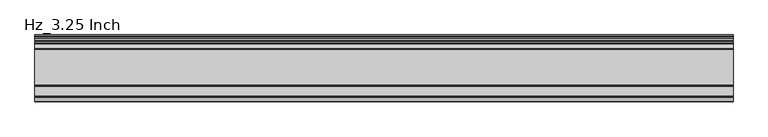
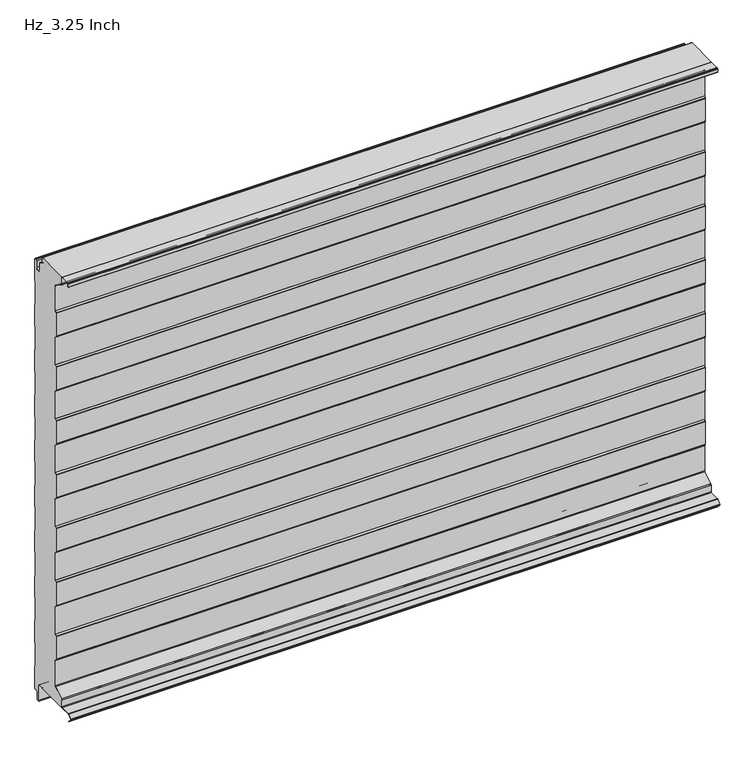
"""IFC4 building model written with IfcOpenShell, lengths in millimetres: plate geometry, KIP_R19_CP_KingSeam_Hz_Roof Panel : Hz_3.25 Inch."""

import ifcopenshell
import ifcopenshell.guid

model = None  # the IFC model being written
_history = None  # IfcOwnerHistory: only IFC2X3 demands one
_inside = {}  # id of a spatial element -> (the spatial element, [elements in it])
_under = {}  # id of a project, library or spatial element -> (it, [spatial elements below it])
_declared = {}  # id of a project -> (the project, [libraries it declares])
_typed = {}  # id of a type object -> (the type object, [elements of that type])
_made_of = {}  # id of a material, layer set ... -> (it, [elements and type objects made of it])


def new_model(schema):
    """Start an empty IFC model of exactly this schema.

    Asked for "IFC4X3", IfcOpenShell would pick the latest addendum, in which some entities
    have other attributes; the version numbers below select the first issue.
    IFC2X3 requires an IfcOwnerHistory on every rooted entity: one is made here for all.
    """
    global model, _history
    if schema == "IFC4X3":
        model = ifcopenshell.file(schema_version=(4, 3, 0, 0))
    else:
        model = ifcopenshell.file(schema=schema)
    _inside.clear()
    _under.clear()
    _declared.clear()
    _typed.clear()
    _made_of.clear()
    _history = None
    if model.schema == "IFC2X3":
        org = make("IfcOrganization", Name="unknown")
        user = make(
            "IfcPersonAndOrganization",
            ThePerson=make("IfcPerson", FamilyName="unknown"),
            TheOrganization=org,
        )
        app = make(
            "IfcApplication",
            ApplicationDeveloper=org,
            Version="unknown",
            ApplicationFullName="unknown",
            ApplicationIdentifier="unknown",
        )
        _history = make(
            "IfcOwnerHistory",
            OwningUser=user,
            OwningApplication=app,
            ChangeAction="ADDED",
            CreationDate=0,
        )
    return model


def make(cls, **values):
    """One entity of the class cls with the attributes given. An attribute that is None is left unset."""
    return model.create_entity(
        cls, **{name: value for name, value in values.items() if value is not None}
    )


def rooted(cls, **values):
    """An entity with a GlobalId (a new one), such as an element, a storey or a relation."""
    return make(cls, GlobalId=ifcopenshell.guid.new(), OwnerHistory=_history, **values)


def si_unit(unit_type, name, prefix=None):
    """IfcSIUnit, for example si_unit("LENGTHUNIT", "METRE", prefix="MILLI")."""
    return make("IfcSIUnit", UnitType=unit_type, Prefix=prefix, Name=name)


def assignment(units):
    """IfcUnitAssignment: the units of a project."""
    return None if units is None else make("IfcUnitAssignment", Units=units)


def point(xyz):
    """IfcCartesianPoint."""
    return None if xyz is None else make("IfcCartesianPoint", Coordinates=xyz)


def direction(xyz):
    """IfcDirection."""
    return None if xyz is None else make("IfcDirection", DirectionRatios=xyz)


def frame(location, z_axis=None, x_axis=None):
    """IfcAxis2Placement3D, a coordinate frame: its origin and axes. An axis left out is left unset."""
    return make(
        "IfcAxis2Placement3D",
        Location=point(location),
        Axis=direction(z_axis),
        RefDirection=direction(x_axis),
    )


def frame_2d(location, x_axis=None):
    """IfcAxis2Placement2D, a coordinate frame in the plane: its origin and x axis."""
    return make(
        "IfcAxis2Placement2D", Location=point(location), RefDirection=direction(x_axis)
    )


def origin():
    """The frame at (0, 0, 0) with its axes left unset."""
    return frame((0.0, 0.0, 0.0))


def place(relative_to, where):
    """IfcLocalPlacement: puts the frame where relative to a parent placement (None: the world)."""
    return make(
        "IfcLocalPlacement", PlacementRelTo=relative_to, RelativePlacement=where
    )


def context(
    kind, dimensions, precision=None, world=None, true_north=None, identifier=None
):
    """IfcGeometricRepresentationContext, for example the 3D "Model" context."""
    return make(
        "IfcGeometricRepresentationContext",
        ContextIdentifier=identifier,
        ContextType=kind,
        CoordinateSpaceDimension=dimensions,
        Precision=precision,
        WorldCoordinateSystem=world,
        TrueNorth=true_north,
    )


def project(units=None, contexts=None):
    """IfcProject with its units and contexts."""
    return rooted(
        "IfcProject",
        Name="project",
        RepresentationContexts=contexts,
        UnitsInContext=assignment(units),
    )


def spatial(cls, under=None, at=None, **own):
    """A site, building, storey or space (cls), placed at a placement, below another one or the project."""
    s = rooted(cls, ObjectPlacement=at, **own)
    if under is not None:
        _under.setdefault(under.id(), (under, []))[1].append(s)
    return s


def polyline(points):
    """IfcPolyline through the points."""
    return make("IfcPolyline", Points=[point(p) for p in points])


def circle_curve(where, radius):
    """IfcCircle in the frame where."""
    return make("IfcCircle", Position=where, Radius=radius)


def trimmed(basis, trim1, trim2, sense, master):
    """IfcTrimmedCurve: the piece of a basis curve between two trims."""
    return make(
        "IfcTrimmedCurve",
        BasisCurve=basis,
        Trim1=trim1,
        Trim2=trim2,
        SenseAgreement=sense,
        MasterRepresentation=master,
    )


def segment(curve, same_sense, transition):
    """IfcCompositeCurveSegment."""
    return make(
        "IfcCompositeCurveSegment",
        Transition=transition,
        SameSense=same_sense,
        ParentCurve=curve,
    )


def composite_curve(segments, self_intersect=None):
    """IfcCompositeCurve: segments joined end to end."""
    return make("IfcCompositeCurve", Segments=segments, SelfIntersect=self_intersect)


def outline(outer, holes=None, kind="AREA"):
    """IfcArbitraryClosedProfileDef: a profile drawn as a closed curve; with holes, ...WithVoids."""
    if holes is None:
        return make("IfcArbitraryClosedProfileDef", ProfileType=kind, OuterCurve=outer)
    return make(
        "IfcArbitraryProfileDefWithVoids",
        ProfileType=kind,
        OuterCurve=outer,
        InnerCurves=holes,
    )


def extrude(swept, where, along, depth):
    """IfcExtrudedAreaSolid: the profile swept, set in the frame where, extruded along a direction by depth."""
    return make(
        "IfcExtrudedAreaSolid",
        SweptArea=swept,
        Position=where,
        ExtrudedDirection=direction(along),
        Depth=depth,
    )


def shape(context_of_items, identifier, shape_type, items):
    """IfcShapeRepresentation: the items that make up one representation, for example the "Body"."""
    return make(
        "IfcShapeRepresentation",
        ContextOfItems=context_of_items,
        RepresentationIdentifier=identifier,
        RepresentationType=shape_type,
        Items=items,
    )


def source(mapping_origin, context_of_items, identifier, shape_type, items):
    """IfcRepresentationMap: a shape defined once, which mapped items show again and again."""
    return make(
        "IfcRepresentationMap",
        MappingOrigin=mapping_origin,
        MappedRepresentation=shape(context_of_items, identifier, shape_type, items),
    )


def transform(
    local_origin,
    x_axis=None,
    y_axis=None,
    z_axis=None,
    scale=None,
    scale2=None,
    scale3=None,
    uniform=True,
):
    """IfcCartesianTransformationOperator3D, or its non-uniform kind. x_axis, y_axis, z_axis: its Axis1, 2, 3."""
    if uniform:
        return make(
            "IfcCartesianTransformationOperator3D",
            Axis1=direction(x_axis),
            Axis2=direction(y_axis),
            LocalOrigin=point(local_origin),
            Scale=scale,
            Axis3=direction(z_axis),
        )
    return make(
        "IfcCartesianTransformationOperator3DnonUniform",
        Axis1=direction(x_axis),
        Axis2=direction(y_axis),
        LocalOrigin=point(local_origin),
        Scale=scale,
        Axis3=direction(z_axis),
        Scale2=scale2,
        Scale3=scale3,
    )


def mapped(mapping_source, mapping_target):
    """IfcMappedItem: shows the shape of a source again, moved by a transform."""
    return make(
        "IfcMappedItem", MappingSource=mapping_source, MappingTarget=mapping_target
    )


def made_of(thing, what):
    """Note that an element or type object is made of a material, layer set ...; save() writes the relation."""
    if what is not None:
        _made_of.setdefault(what.id(), (what, []))[1].append(thing)
    return thing


def element(
    cls,
    number,
    at=None,
    inside=None,
    cuts=None,
    type_object=None,
    material=None,
    context=None,
    identifier="Body",
    shape_type=None,
    held_by="IfcProductDefinitionShape",
    body=None,
    shapes=None,
    **own,
):
    """One element of the class cls, such as IfcWall. Its Tag is "e" and its number.

    at: its placement. inside: the storey or other place that contains it. cuts: it is an
    opening in that element (IfcRelVoidsElement). A single representation is given by context,
    identifier, shape_type and body (its items); several are given by shapes. held_by: the class
    of the entity that holds the representations. save() writes the other relations.
    """
    e = rooted(cls, Tag="e%d" % number, ObjectPlacement=at, **own)
    if body is not None:
        shapes = [shape(context, identifier, shape_type, body)]
    if shapes is not None:
        e.Representation = make(held_by, Representations=shapes)
    if inside is not None:
        _inside.setdefault(inside.id(), (inside, []))[1].append(e)
    if cuts is not None:
        rooted(
            "IfcRelVoidsElement", RelatingBuildingElement=cuts, RelatedOpeningElement=e
        )
    if type_object is not None:
        _typed.setdefault(type_object.id(), (type_object, []))[1].append(e)
    return made_of(e, material)


def aggregate(whole, parts):
    """IfcRelAggregates: a whole, such as a stair, and the parts it consists of."""
    return rooted("IfcRelAggregates", RelatingObject=whole, RelatedObjects=parts)


def save(model, path):
    """Write the relations noted so far, then the file.

    IfcRelAggregates (storeys below a building ...), IfcRelContainedInSpatialStructure (elements
    in a storey), IfcRelDefinesByType, IfcRelAssociatesMaterial and IfcRelDeclares: one each for
    every whole, place, type object, material and project.
    """
    for whole, parts in _under.values():
        aggregate(whole, parts)
    for where, things in _inside.values():
        rooted(
            "IfcRelContainedInSpatialStructure",
            RelatedElements=things,
            RelatingStructure=where,
        )
    for kind, things in _typed.values():
        rooted("IfcRelDefinesByType", RelatedObjects=things, RelatingType=kind)
    for what, things in _made_of.values():
        rooted("IfcRelAssociatesMaterial", RelatedObjects=things, RelatingMaterial=what)
    for by, libraries in _declared.values():
        rooted("IfcRelDeclares", RelatingContext=by, RelatedDefinitions=libraries)
    model.write(path)


def hz_3_25_inch_18bb287b(model_context):
    return source(origin(), model_context, "Body", "SweptSolid", [
        extrude(outline(composite_curve([segment(polyline([(-82.2658093, 535.7535265), (-79.7658809, 539.2132218), (-79.7658809, 603.7867783), (-82.265809, 607.2464732)]), True, "CONTINUOUS"), segment(trimmed(circle_curve(frame_2d((-81.0500003, 608.1249998)), 1.4999999), [point((-82.265809, 607.2464732))], [point((-82.5500002, 608.1249998))], False, "CARTESIAN"), True, "CONTINUOUS"), segment(polyline([(-82.5500002, 608.1249998), (-82.5500003, 661.8749998)]), True, "CONTINUOUS"), segment(trimmed(circle_curve(frame_2d((-81.0500002, 661.8749998)), 1.5), [point((-82.5500003, 661.8749998))], [point((-82.2658089, 662.7535266))], False, "CARTESIAN"), True, "CONTINUOUS"), segment(polyline([(-82.2658089, 662.7535266), (-79.7658807, 666.2132214), (-79.7658807, 730.7867783), (-82.265809, 734.246473)]), True, "CONTINUOUS"), segment(trimmed(circle_curve(frame_2d((-81.0500003, 735.1249998)), 1.5000001), [point((-82.265809, 734.246473))], [point((-82.5500004, 735.1249998))], False, "CARTESIAN"), True, "CONTINUOUS"), segment(polyline([(-82.5500004, 735.1249998), (-82.5500004, 788.8749998)]), True, "CONTINUOUS"), segment(trimmed(circle_curve(frame_2d((-81.0500005, 788.8749998)), 1.4999999), [point((-82.5500004, 788.8749998))], [point((-82.2658091, 789.7535265))], False, "CARTESIAN"), True, "CONTINUOUS"), segment(polyline([(-82.2658091, 789.7535265), (-79.7658803, 793.2132223), (-79.7658803, 857.7867782), (-82.2658086, 861.246473)]), True, "CONTINUOUS"), segment(trimmed(circle_curve(frame_2d((-81.0499999, 862.1249998)), 1.5000001), [point((-82.2658086, 861.246473))], [point((-82.55, 862.1249998))], False, "CARTESIAN"), True, "CONTINUOUS"), segment(polyline([(-82.55, 862.1249998), (-82.55, 915.8749998)]), True, "CONTINUOUS"), segment(trimmed(circle_curve(frame_2d((-81.0500001, 915.8749998)), 1.4999999), [point((-82.55, 915.8749998))], [point((-82.2658088, 916.7535264))], False, "CARTESIAN"), True, "CONTINUOUS"), segment(polyline([(-82.2658088, 916.7535264), (-79.7658808, 920.2132216), (-79.7658808, 979.387149)]), True, "CONTINUOUS"), segment(trimmed(circle_curve(frame_2d((-82.2658808, 979.387149)), 2.5), [point((-79.7658808, 979.387149))], [point((-80.8865754, 981.4722189))], True, "CARTESIAN"), True, "CONTINUOUS"), segment(polyline([(-80.8865754, 981.4722189), (-103.8693251, 996.6756573)]), True, "CONTINUOUS"), segment(trimmed(circle_curve(frame_2d((-102.7658808, 998.3437132)), 2.0), [point((-103.8693251, 996.6756573))], [point((-104.7658808, 998.3437132))], False, "CARTESIAN"), True, "CONTINUOUS"), segment(polyline([(-104.7658808, 998.3437132), (-104.7658808, 1013.8999998)]), True, "CONTINUOUS"), segment(trimmed(circle_curve(frame_2d((-106.8658808, 1013.8999998)), 2.1), [point((-104.7658808, 1013.8999998))], [point((-106.8658808, 1015.9999998))], True, "CARTESIAN"), True, "CONTINUOUS"), segment(polyline([(-106.8658808, 1015.9999998), (-31.9999994, 1015.9999998), (-31.9999994, 1015.1999999), (-30.7664368, 1015.1999999)]), True, "CONTINUOUS"), segment(trimmed(circle_curve(frame_2d((-30.7664368, 1014.1999999)), 1.0), [point((-30.7664368, 1015.1999999))], [point((-29.7664368, 1014.1999999))], False, "CARTESIAN"), True, "CONTINUOUS"), segment(polyline([(-29.7664368, 1014.1999999), (-29.7664368, 1004.6085617)]), True, "CONTINUOUS"), segment(trimmed(circle_curve(frame_2d((-27.7664368, 1004.6085617)), 2.0), [point((-29.7664368, 1004.6085617))], [point((-28.7691573, 1002.8780844))], True, "CARTESIAN"), True, "CONTINUOUS"), segment(polyline([(-28.7691573, 1002.8780844), (-18.9986392, 997.2165837)]), True, "CONTINUOUS"), segment(trimmed(circle_curve(frame_2d((-19.4999994, 996.351345)), 1.0), [point((-18.9986392, 997.2165837))], [point((-18.4999994, 996.351345))], False, "CARTESIAN"), True, "CONTINUOUS"), segment(polyline([(-18.4999994, 996.351345), (-18.4999994, 979.25)]), True, "CONTINUOUS"), segment(trimmed(circle_curve(frame_2d((-13.7499994, 979.25)), 4.75), [point((-18.4999994, 979.25))], [point((-13.7499994, 974.5))], True, "CARTESIAN"), True, "CONTINUOUS"), segment(polyline([(-13.7499994, 974.5), (-12.2499994, 974.5)]), True, "CONTINUOUS"), segment(trimmed(circle_curve(frame_2d((-12.2499994, 979.25)), 4.75), [point((-12.2499994, 974.5))], [point((-7.4999994, 979.25))], True, "CARTESIAN"), True, "CONTINUOUS"), segment(polyline([(-7.4999994, 979.25), (-7.4999994, 994.2157998)]), True, "CONTINUOUS"), segment(trimmed(circle_curve(frame_2d((-4.9999994, 994.2157998)), 2.5), [point((-7.4999994, 994.2157998))], [point((-4.9999994, 996.7157998))], False, "CARTESIAN"), True, "CONTINUOUS"), segment(polyline([(-4.9999994, 996.7157998), (-2.9999994, 996.7157998)]), True, "CONTINUOUS"), segment(trimmed(circle_curve(frame_2d((-2.8161919, 994.6595504)), 2.0644483), [point((-2.9999994, 996.7157998))], [point((-0.7999994, 994.2157998))], False, "CARTESIAN"), True, "CONTINUOUS"), segment(polyline([(-0.7999994, 994.2157998), (-0.7999994, 944.4584772)]), True, "CONTINUOUS"), segment(trimmed(circle_curve(frame_2d((-3.1999994, 944.4584772)), 2.4), [point((-0.7999994, 944.4584772))], [point((-0.9968117, 943.5066559))], False, "CARTESIAN"), True, "CONTINUOUS"), segment(polyline([(-0.9968117, 943.5066559), (-2.0293826, 941.1165567)]), True, "CONTINUOUS"), segment(trimmed(circle_curve(frame_2d((1.0000006, 939.8078024)), 3.3), [point((-2.0293826, 941.1165567))], [point((-2.2999994, 939.8078024))], True, "CARTESIAN"), True, "CONTINUOUS"), segment(polyline([(-2.2999994, 939.8078024), (-2.2999994, 891.4237972)]), True, "CONTINUOUS"), segment(trimmed(circle_curve(frame_2d((1.0000006, 891.4237972)), 3.3), [point((-2.2999994, 891.4237972))], [point((-2.0293826, 890.1150429))], True, "CARTESIAN"), True, "CONTINUOUS"), segment(polyline([(-2.0293826, 890.1150429), (-0.9968117, 887.7249437)]), True, "CONTINUOUS"), segment(trimmed(circle_curve(frame_2d((-3.1999994, 886.7731223)), 2.4), [point((-0.9968117, 887.7249437))], [point((-0.7999994, 886.7731223))], False, "CARTESIAN"), True, "CONTINUOUS"), segment(polyline([(-0.7999994, 886.7731223), (-0.7999994, 837.8584772)]), True, "CONTINUOUS"), segment(trimmed(circle_curve(frame_2d((-3.1999994, 837.8584772)), 2.4), [point((-0.7999994, 837.8584772))], [point((-0.9968117, 836.9066559))], False, "CARTESIAN"), True, "CONTINUOUS"), segment(polyline([(-0.9968117, 836.9066559), (-2.0293826, 834.5165567)]), True, "CONTINUOUS"), segment(trimmed(circle_curve(frame_2d((1.0000006, 833.2078024)), 3.3), [point((-2.0293826, 834.5165567))], [point((-2.2999994, 833.2078024))], True, "CARTESIAN"), True, "CONTINUOUS"), segment(polyline([(-2.2999994, 833.2078024), (-2.2999994, 784.8237972)]), True, "CONTINUOUS"), segment(trimmed(circle_curve(frame_2d((1.0000006, 784.8237972)), 3.3), [point((-2.2999994, 784.8237972))], [point((-2.0293826, 783.5150429))], True, "CARTESIAN"), True, "CONTINUOUS"), segment(polyline([(-2.0293826, 783.5150429), (-0.9968117, 781.1249437)]), True, "CONTINUOUS"), segment(trimmed(circle_curve(frame_2d((-3.1999994, 780.1731223)), 2.4), [point((-0.9968117, 781.1249437))], [point((-0.7999994, 780.1731223))], False, "CARTESIAN"), True, "CONTINUOUS"), segment(polyline([(-0.7999994, 780.1731223), (-0.7999994, 731.2584772)]), True, "CONTINUOUS"), segment(trimmed(circle_curve(frame_2d((-3.1999994, 731.2584772)), 2.4), [point((-0.7999994, 731.2584772))], [point((-0.9968117, 730.3066559))], False, "CARTESIAN"), True, "CONTINUOUS"), segment(polyline([(-0.9968117, 730.3066559), (-2.0293826, 727.9165567)]), True, "CONTINUOUS"), segment(trimmed(circle_curve(frame_2d((1.0000006, 726.6078024)), 3.3), [point((-2.0293826, 727.9165567))], [point((-2.2999994, 726.6078024))], True, "CARTESIAN"), True, "CONTINUOUS"), segment(polyline([(-2.2999994, 726.6078024), (-2.2999994, 678.2237972)]), True, "CONTINUOUS"), segment(trimmed(circle_curve(frame_2d((1.0000006, 678.2237972)), 3.3), [point((-2.2999994, 678.2237972))], [point((-2.0293826, 676.9150429))], True, "CARTESIAN"), True, "CONTINUOUS"), segment(polyline([(-2.0293826, 676.9150429), (-0.9968117, 674.5249437)]), True, "CONTINUOUS"), segment(trimmed(circle_curve(frame_2d((-3.1999994, 673.5731223)), 2.4), [point((-0.9968117, 674.5249437))], [point((-0.7999994, 673.5731223))], False, "CARTESIAN"), True, "CONTINUOUS"), segment(polyline([(-0.7999994, 673.5731223), (-0.7999994, 624.6584772)]), True, "CONTINUOUS"), segment(trimmed(circle_curve(frame_2d((-3.1999994, 624.6584772)), 2.4), [point((-0.7999994, 624.6584772))], [point((-0.9968117, 623.7066559))], False, "CARTESIAN"), True, "CONTINUOUS"), segment(polyline([(-0.9968117, 623.7066559), (-2.0293826, 621.3165567)]), True, "CONTINUOUS"), segment(trimmed(circle_curve(frame_2d((1.0000006, 620.0078024)), 3.3), [point((-2.0293826, 621.3165567))], [point((-2.2999994, 620.0078024))], True, "CARTESIAN"), True, "CONTINUOUS"), segment(polyline([(-2.2999994, 620.0078024), (-2.2999994, 571.6237972)]), True, "CONTINUOUS"), segment(trimmed(circle_curve(frame_2d((1.0000006, 571.6237972)), 3.3), [point((-2.2999994, 571.6237972))], [point((-2.0293826, 570.3150429))], True, "CARTESIAN"), True, "CONTINUOUS"), segment(polyline([(-2.0293826, 570.3150429), (-0.9968117, 567.9249437)]), True, "CONTINUOUS"), segment(trimmed(circle_curve(frame_2d((-3.1999994, 566.9731223)), 2.4), [point((-0.9968117, 567.9249437))], [point((-0.7999994, 566.9731223))], False, "CARTESIAN"), True, "CONTINUOUS"), segment(polyline([(-0.7999994, 566.9731223), (-0.7999994, 518.0584772)]), True, "CONTINUOUS"), segment(trimmed(circle_curve(frame_2d((-3.1999994, 518.0584772)), 2.4), [point((-0.7999994, 518.0584772))], [point((-0.9968117, 517.1066559))], False, "CARTESIAN"), True, "CONTINUOUS"), segment(polyline([(-0.9968117, 517.1066559), (-2.0293826, 514.7165567)]), True, "CONTINUOUS"), segment(trimmed(circle_curve(frame_2d((1.0000006, 513.4078024)), 3.3), [point((-2.0293826, 514.7165567))], [point((-2.2999994, 513.4078024))], True, "CARTESIAN"), True, "CONTINUOUS"), segment(polyline([(-2.2999994, 513.4078024), (-2.2999994, 465.0237972)]), True, "CONTINUOUS"), segment(trimmed(circle_curve(frame_2d((1.0000006, 465.0237972)), 3.3), [point((-2.2999994, 465.0237972))], [point((-2.0293826, 463.7150429))], True, "CARTESIAN"), True, "CONTINUOUS"), segment(polyline([(-2.0293826, 463.7150429), (-0.9968117, 461.3249437)]), True, "CONTINUOUS"), segment(trimmed(circle_curve(frame_2d((-3.1999994, 460.3731223)), 2.4), [point((-0.9968117, 461.3249437))], [point((-0.7999994, 460.3731223))], False, "CARTESIAN"), True, "CONTINUOUS"), segment(polyline([(-0.7999994, 460.3731223), (-0.7999994, 411.4584772)]), True, "CONTINUOUS"), segment(trimmed(circle_curve(frame_2d((-3.1999994, 411.4584772)), 2.4), [point((-0.7999994, 411.4584772))], [point((-0.9968117, 410.5066559))], False, "CARTESIAN"), True, "CONTINUOUS"), segment(polyline([(-0.9968117, 410.5066559), (-2.0293826, 408.1165567)]), True, "CONTINUOUS"), segment(trimmed(circle_curve(frame_2d((1.0000006, 406.8078024)), 3.3), [point((-2.0293826, 408.1165567))], [point((-2.2999994, 406.8078024))], True, "CARTESIAN"), True, "CONTINUOUS"), segment(polyline([(-2.2999994, 406.8078024), (-2.2999994, 358.4237972)]), True, "CONTINUOUS"), segment(trimmed(circle_curve(frame_2d((1.0000006, 358.4237972)), 3.3), [point((-2.2999994, 358.4237972))], [point((-2.0293826, 357.1150429))], True, "CARTESIAN"), True, "CONTINUOUS"), segment(polyline([(-2.0293826, 357.1150429), (-0.9968117, 354.7249437)]), True, "CONTINUOUS"), segment(trimmed(circle_curve(frame_2d((-3.1999994, 353.7731223)), 2.4), [point((-0.9968117, 354.7249437))], [point((-0.7999994, 353.7731223))], False, "CARTESIAN"), True, "CONTINUOUS"), segment(polyline([(-0.7999994, 353.7731223), (-0.7999994, 304.8584772)]), True, "CONTINUOUS"), segment(trimmed(circle_curve(frame_2d((-3.1999994, 304.8584772)), 2.4), [point((-0.7999994, 304.8584772))], [point((-0.9968117, 303.9066559))], False, "CARTESIAN"), True, "CONTINUOUS"), segment(polyline([(-0.9968117, 303.9066559), (-2.0293826, 301.5165567)]), True, "CONTINUOUS"), segment(trimmed(circle_curve(frame_2d((1.0000006, 300.2078024)), 3.3), [point((-2.0293826, 301.5165567))], [point((-2.2999994, 300.2078024))], True, "CARTESIAN"), True, "CONTINUOUS"), segment(polyline([(-2.2999994, 300.2078024), (-2.2999994, 251.8237972)]), True, "CONTINUOUS"), segment(trimmed(circle_curve(frame_2d((1.0000006, 251.8237972)), 3.3), [point((-2.2999994, 251.8237972))], [point((-2.0293826, 250.5150429))], True, "CARTESIAN"), True, "CONTINUOUS"), segment(polyline([(-2.0293826, 250.5150429), (-0.9968117, 248.1249437)]), True, "CONTINUOUS"), segment(trimmed(circle_curve(frame_2d((-3.1999994, 247.1731223)), 2.4), [point((-0.9968117, 248.1249437))], [point((-0.7999994, 247.1731223))], False, "CARTESIAN"), True, "CONTINUOUS"), segment(polyline([(-0.7999994, 247.1731223), (-0.7999994, 198.2584772)]), True, "CONTINUOUS"), segment(trimmed(circle_curve(frame_2d((-3.1999994, 198.2584772)), 2.4), [point((-0.7999994, 198.2584772))], [point((-0.9968117, 197.3066559))], False, "CARTESIAN"), True, "CONTINUOUS"), segment(polyline([(-0.9968117, 197.3066559), (-2.0293826, 194.9165567)]), True, "CONTINUOUS"), segment(trimmed(circle_curve(frame_2d((1.0000006, 193.6078024)), 3.3), [point((-2.0293826, 194.9165567))], [point((-2.2999994, 193.6078024))], True, "CARTESIAN"), True, "CONTINUOUS"), segment(polyline([(-2.2999994, 193.6078024), (-2.2999994, 145.2237972)]), True, "CONTINUOUS"), segment(trimmed(circle_curve(frame_2d((1.0000006, 145.2237972)), 3.3), [point((-2.2999994, 145.2237972))], [point((-2.0293826, 143.9150429))], True, "CARTESIAN"), True, "CONTINUOUS"), segment(polyline([(-2.0293826, 143.9150429), (-0.9968117, 141.5249437)]), True, "CONTINUOUS"), segment(trimmed(circle_curve(frame_2d((-3.1999994, 140.5731223)), 2.4), [point((-0.9968117, 141.5249437))], [point((-0.7999994, 140.5731223))], False, "CARTESIAN"), True, "CONTINUOUS"), segment(polyline([(-0.7999994, 140.5731223), (-0.7999994, 91.6584772)]), True, "CONTINUOUS"), segment(trimmed(circle_curve(frame_2d((-3.1999994, 91.6584772)), 2.4), [point((-0.7999994, 91.6584772))], [point((-0.9968117, 90.7066559))], False, "CARTESIAN"), True, "CONTINUOUS"), segment(polyline([(-0.9968117, 90.7066559), (-2.0293826, 88.3165567)]), True, "CONTINUOUS"), segment(trimmed(circle_curve(frame_2d((1.0000006, 87.0078024)), 3.3), [point((-2.0293826, 88.3165567))], [point((-2.2999994, 87.0078024))], True, "CARTESIAN"), True, "CONTINUOUS"), segment(polyline([(-2.2999994, 87.0078024), (-2.2999994, 38.6237972)]), True, "CONTINUOUS"), segment(trimmed(circle_curve(frame_2d((1.0000006, 38.6237972)), 3.3), [point((-2.2999994, 38.6237972))], [point((-2.0293826, 37.3150429))], True, "CARTESIAN"), True, "CONTINUOUS"), segment(polyline([(-2.0293826, 37.3150429), (-0.9968117, 34.9249437)]), True, "CONTINUOUS"), segment(trimmed(circle_curve(frame_2d((-3.1999994, 33.9731223)), 2.4), [point((-0.9968117, 34.9249437))], [point((-0.7999994, 33.9731223))], False, "CARTESIAN"), True, "CONTINUOUS"), segment(polyline([(-0.7999994, 33.9731223), (-0.7999994, -15.7842002)]), True, "CONTINUOUS"), segment(trimmed(circle_curve(frame_2d((-2.8161919, -16.2279508)), 2.0644483), [point((-0.7999994, -15.7842002))], [point((-2.9999994, -18.2842002))], False, "CARTESIAN"), True, "CONTINUOUS"), segment(polyline([(-2.9999994, -18.2842002), (-6.4999994, -18.2842002)]), True, "CONTINUOUS"), segment(trimmed(circle_curve(frame_2d((-6.4999994, -21.2842002)), 3.0), [point((-6.4999994, -18.2842002))], [point((-9.4999994, -21.2842002))], True, "CARTESIAN"), True, "CONTINUOUS"), segment(polyline([(-9.4999994, -21.2842002), (-9.4999994, -37.0)]), True, "CONTINUOUS"), segment(trimmed(circle_curve(frame_2d((-11.9999994, -37.0)), 2.5), [point((-9.4999994, -37.0))], [point((-11.9999994, -39.5))], False, "CARTESIAN"), True, "CONTINUOUS"), segment(polyline([(-11.9999994, -39.5), (-13.9999994, -39.5)]), True, "CONTINUOUS"), segment(trimmed(circle_curve(frame_2d((-13.9999994, -37.0)), 2.5), [point((-13.9999994, -39.5))], [point((-16.4999994, -37.0))], False, "CARTESIAN"), True, "CONTINUOUS"), segment(polyline([(-16.4999994, -37.0), (-16.4999994, -1.5)]), True, "CONTINUOUS"), segment(trimmed(circle_curve(frame_2d((-18.4999994, -1.5)), 2.0), [point((-16.4999994, -1.5))], [point((-18.4999994, 0.5))], True, "CARTESIAN"), True, "CONTINUOUS"), segment(polyline([(-18.4999994, 0.5), (-29.6999994, 0.5)]), True, "CONTINUOUS"), segment(trimmed(circle_curve(frame_2d((-29.6999994, 2.0)), 1.5), [point((-29.6999994, 0.5))], [point((-31.1999994, 2.0))], False, "CARTESIAN"), True, "CONTINUOUS"), segment(polyline([(-31.1999994, 2.0), (-31.1999994, 9.5), (-31.9999994, 9.5), (-31.9999994, 2.0)]), True, "CONTINUOUS"), segment(trimmed(circle_curve(frame_2d((-29.9999994, 2.0)), 2.0), [point((-31.9999994, 2.0))], [point((-29.9999994, 0.0))], True, "CARTESIAN"), True, "CONTINUOUS"), segment(polyline([(-29.9999994, 0.0), (-106.8658809, 0.0)]), True, "CONTINUOUS"), segment(trimmed(circle_curve(frame_2d((-106.8658809, 2.0999999)), 2.0999999), [point((-106.8658809, 0.0))], [point((-104.7658811, 2.0999999))], True, "CARTESIAN"), True, "CONTINUOUS"), segment(polyline([(-104.7658811, 2.0999999), (-104.7658811, 17.6562865)]), True, "CONTINUOUS"), segment(trimmed(circle_curve(frame_2d((-102.7658811, 17.6562865)), 2.0), [point((-104.7658811, 17.6562865))], [point((-103.8693254, 19.3243424))], False, "CARTESIAN"), True, "CONTINUOUS"), segment(polyline([(-103.8693254, 19.3243424), (-80.8865754, 34.5277806)]), True, "CONTINUOUS"), segment(trimmed(circle_curve(frame_2d((-82.2658809, 36.6128507)), 2.5000002), [point((-80.8865754, 34.5277806))], [point((-79.7658807, 36.6128507))], True, "CARTESIAN"), True, "CONTINUOUS"), segment(polyline([(-79.7658807, 36.6128507), (-79.7658807, 95.7867783), (-82.265809, 99.2464731)]), True, "CONTINUOUS"), segment(trimmed(circle_curve(frame_2d((-81.0500002, 100.1249999)), 1.5000002), [point((-82.265809, 99.2464731))], [point((-82.5500003, 100.1249999))], False, "CARTESIAN"), True, "CONTINUOUS"), segment(polyline([(-82.5500003, 100.1249999), (-82.5500003, 153.8749999)]), True, "CONTINUOUS"), segment(trimmed(circle_curve(frame_2d((-81.0500001, 153.8749999)), 1.5000002), [point((-82.5500003, 153.8749999))], [point((-82.265809, 154.7535268))], False, "CARTESIAN"), True, "CONTINUOUS"), segment(polyline([(-82.265809, 154.7535268), (-79.7658807, 158.2132214), (-79.7658807, 222.7867783), (-82.265809, 226.2464731)]), True, "CONTINUOUS"), segment(trimmed(circle_curve(frame_2d((-81.0500003, 227.1249999)), 1.5000001), [point((-82.265809, 226.2464731))], [point((-82.5500004, 227.1249999))], False, "CARTESIAN"), True, "CONTINUOUS"), segment(polyline([(-82.5500004, 227.1249999), (-82.5500004, 280.8749999)]), True, "CONTINUOUS"), segment(trimmed(circle_curve(frame_2d((-81.0500006, 280.8749999)), 1.4999997), [point((-82.5500004, 280.8749999))], [point((-82.2658092, 281.7535264))], False, "CARTESIAN"), True, "CONTINUOUS"), segment(polyline([(-82.2658092, 281.7535264), (-79.7658809, 285.2132219), (-79.7658809, 349.7867783), (-82.2658092, 353.246473)]), True, "CONTINUOUS"), segment(trimmed(circle_curve(frame_2d((-81.0500005, 354.1249999)), 1.5000001), [point((-82.2658092, 353.246473))], [point((-82.5500006, 354.1249999))], False, "CARTESIAN"), True, "CONTINUOUS"), segment(polyline([(-82.5500006, 354.1249999), (-82.5500006, 407.8749998)]), True, "CONTINUOUS"), segment(trimmed(circle_curve(frame_2d((-81.0500006, 407.8749998)), 1.4999999), [point((-82.5500006, 407.8749998))], [point((-82.2658093, 408.7535265))], False, "CARTESIAN"), True, "CONTINUOUS"), segment(polyline([(-82.2658093, 408.7535265), (-79.7658809, 412.2132218), (-79.7658809, 476.7867783), (-82.2658092, 480.246473)]), True, "CONTINUOUS"), segment(trimmed(circle_curve(frame_2d((-81.0500005, 481.1249999)), 1.5000001), [point((-82.2658092, 480.246473))], [point((-82.5500006, 481.1249999))], False, "CARTESIAN"), True, "CONTINUOUS"), segment(polyline([(-82.5500006, 481.1249999), (-82.5500006, 534.8749998)]), True, "CONTINUOUS"), segment(trimmed(circle_curve(frame_2d((-81.0500006, 534.8749998)), 1.4999999), [point((-82.5500006, 534.8749998))], [point((-82.2658093, 535.7535265))], False, "CARTESIAN"), True, "CONTINUOUS")], self_intersect=False)), frame((-723.9042608, 0.0, 0.0), z_axis=(1.0, 0.0, 0.0), x_axis=(0.0, 1.0, 0.0)), (0.0, 0.0, 1.0), 1447.8085217),
        extrude(outline(composite_curve([segment(polyline([(-82.7658084, 154.7942705), (-80.265881, 158.253964), (-80.265881, 222.8275218), (-82.765809, 226.287217)]), True, "CONTINUOUS"), segment(trimmed(circle_curve(frame_2d((-81.5500005, 227.1657434)), 1.4999996), [point((-82.765809, 226.287217))], [point((-83.0499998, 227.1667148))], False, "CARTESIAN"), True, "CONTINUOUS"), segment(polyline([(-83.0499998, 227.1667148), (-83.0499998, 280.9157434)]), True, "CONTINUOUS"), segment(trimmed(circle_curve(frame_2d((-81.5499998, 280.9157434)), 1.5), [point((-83.0499998, 280.9157434))], [point((-82.7658085, 281.7942702))], False, "CARTESIAN"), True, "CONTINUOUS"), segment(polyline([(-82.7658085, 281.7942702), (-80.2658804, 285.2539647), (-80.2658804, 349.8275216), (-82.7658085, 353.2872165)]), True, "CONTINUOUS"), segment(trimmed(circle_curve(frame_2d((-81.5499998, 354.1657432)), 1.4999999), [point((-82.7658085, 353.2872165))], [point((-83.0499994, 354.1667146))], False, "CARTESIAN"), True, "CONTINUOUS"), segment(polyline([(-83.0499994, 354.1667146), (-83.0499994, 407.9157432)]), True, "CONTINUOUS"), segment(trimmed(circle_curve(frame_2d((-81.5499995, 407.9157432)), 1.4999999), [point((-83.0499994, 407.9157432))], [point((-82.7658082, 408.7942699))], False, "CARTESIAN"), True, "CONTINUOUS"), segment(polyline([(-82.7658082, 408.7942699), (-80.2658804, 412.2539643), (-80.2658804, 476.8275216), (-82.7658085, 480.2872164)]), True, "CONTINUOUS"), segment(trimmed(circle_curve(frame_2d((-81.5499998, 481.1657432)), 1.5), [point((-82.7658085, 480.2872164))], [point((-83.0499995, 481.1667146))], False, "CARTESIAN"), True, "CONTINUOUS"), segment(polyline([(-83.0499995, 481.1667146), (-83.0499995, 534.9157431)]), True, "CONTINUOUS"), segment(trimmed(circle_curve(frame_2d((-81.5499995, 534.9157431)), 1.5), [point((-83.0499995, 534.9157431))], [point((-82.7658082, 535.7942699))], False, "CARTESIAN"), True, "CONTINUOUS"), segment(polyline([(-82.7658082, 535.7942699), (-80.2658804, 539.2539643), (-80.2658804, 603.8275216), (-82.7658085, 607.2872164)]), True, "CONTINUOUS"), segment(trimmed(circle_curve(frame_2d((-81.5499998, 608.1657431)), 1.5), [point((-82.7658085, 607.2872164))], [point((-83.0499995, 608.1667146))], False, "CARTESIAN"), True, "CONTINUOUS"), segment(polyline([(-83.0499995, 608.1667146), (-83.0499995, 661.9157431)]), True, "CONTINUOUS"), segment(trimmed(circle_curve(frame_2d((-81.5499995, 661.9157431)), 1.5), [point((-83.0499995, 661.9157431))], [point((-82.7658082, 662.7942699))], False, "CARTESIAN"), True, "CONTINUOUS"), segment(polyline([(-82.7658082, 662.7942699), (-80.2658804, 666.2539641), (-80.2658804, 730.8275214), (-82.7658087, 734.2872159)]), True, "CONTINUOUS"), segment(trimmed(circle_curve(frame_2d((-81.5499998, 735.1657429)), 1.5000003), [point((-82.7658087, 734.2872159))], [point((-83.0499999, 735.1667144))], False, "CARTESIAN"), True, "CONTINUOUS"), segment(polyline([(-83.0499999, 735.1667144), (-83.0499999, 788.915743)]), True, "CONTINUOUS"), segment(trimmed(circle_curve(frame_2d((-81.5499998, 788.915743)), 1.5), [point((-83.0499999, 788.915743))], [point((-82.7658085, 789.7942697))], False, "CARTESIAN"), True, "CONTINUOUS"), segment(polyline([(-82.7658085, 789.7942697), (-80.2658804, 793.2539644), (-80.2658804, 857.8275212), (-82.7658085, 861.2872162)]), True, "CONTINUOUS"), segment(trimmed(circle_curve(frame_2d((-81.5499999, 862.1657428)), 1.4999999), [point((-82.7658085, 861.2872162))], [point((-83.0499995, 862.1667142))], False, "CARTESIAN"), True, "CONTINUOUS"), segment(polyline([(-83.0499995, 862.1667142), (-83.0499995, 915.9157427)]), True, "CONTINUOUS"), segment(trimmed(circle_curve(frame_2d((-81.5499994, 915.9157427)), 1.5000001), [point((-83.0499995, 915.9157427))], [point((-82.7658081, 916.7942695))], False, "CARTESIAN"), True, "CONTINUOUS"), segment(polyline([(-82.7658081, 916.7942695), (-80.2658806, 920.2539634), (-80.2658806, 979.4278919)]), True, "CONTINUOUS"), segment(trimmed(circle_curve(frame_2d((-82.2658804, 979.4278919)), 1.9999997), [point((-80.2658806, 979.4278919))], [point((-81.1624361, 981.0959476))], True, "CARTESIAN"), True, "CONTINUOUS"), segment(polyline([(-81.1624361, 981.0959476), (-104.1451861, 996.2993863)]), True, "CONTINUOUS"), segment(trimmed(circle_curve(frame_2d((-102.7658807, 998.3844561)), 2.4999999), [point((-104.1451861, 996.2993863))], [point((-105.2658806, 998.3844561))], False, "CARTESIAN"), True, "CONTINUOUS"), segment(polyline([(-105.2658806, 998.3844561), (-105.2658806, 1013.9407427)]), True, "CONTINUOUS"), segment(trimmed(circle_curve(frame_2d((-106.8658806, 1013.9407427)), 1.6), [point((-105.2658806, 1013.9407427))], [point((-106.8658806, 1015.5407427))], True, "CARTESIAN"), True, "CONTINUOUS"), segment(polyline([(-106.8658806, 1015.5407427), (-127.7169597, 1015.5407427)]), True, "CONTINUOUS"), segment(trimmed(circle_curve(frame_2d((-127.7169597, 1014.3507427)), 1.19), [point((-127.7169597, 1015.5407427))], [point((-128.5584168, 1015.1921998))], True, "CARTESIAN"), True, "CONTINUOUS"), segment(polyline([(-128.5584168, 1015.1921998), (-129.5684377, 1014.1821788)]), True, "CONTINUOUS"), segment(trimmed(circle_curve(frame_2d((-128.7269807, 1013.3407218)), 1.19), [point((-129.5684377, 1014.1821788))], [point((-129.9169807, 1013.3407218))], True, "CARTESIAN"), True, "CONTINUOUS"), segment(polyline([(-129.9169807, 1013.3407218), (-129.9169807, 1006.6107427)]), True, "CONTINUOUS"), segment(trimmed(circle_curve(frame_2d((-129.5169807, 1006.6107427)), 0.4), [point((-129.9169807, 1006.6107427))], [point((-129.1169807, 1006.6107427))], True, "CARTESIAN"), True, "CONTINUOUS"), segment(polyline([(-129.1169807, 1006.6107427), (-129.1169807, 1013.3407218), (-128.3169807, 1013.3407218), (-128.3169807, 1006.6107427)]), True, "CONTINUOUS"), segment(trimmed(circle_curve(frame_2d((-129.3669807, 1006.6107427)), 1.05), [point((-128.3169807, 1006.6107427))], [point((-130.4169807, 1006.6107427))], False, "CARTESIAN"), True, "CONTINUOUS"), segment(polyline([(-130.4169807, 1006.6107427), (-130.4169807, 1013.3407218)]), True, "CONTINUOUS"), segment(trimmed(circle_curve(frame_2d((-128.7269807, 1013.3407218)), 1.69), [point((-130.4169807, 1013.3407218))], [point((-129.921991, 1014.5357324))], False, "CARTESIAN"), True, "CONTINUOUS"), segment(polyline([(-129.921991, 1014.5357324), (-128.91197, 1015.5457532)]), True, "CONTINUOUS"), segment(trimmed(circle_curve(frame_2d((-127.7169597, 1014.3507427)), 1.6899998), [point((-128.91197, 1015.5457532))], [point((-127.7169597, 1016.0407425))], False, "CARTESIAN"), True, "CONTINUOUS"), segment(polyline([(-127.7169597, 1016.0407425), (-106.8658805, 1016.0407425)]), True, "CONTINUOUS"), segment(trimmed(circle_curve(frame_2d((-106.8658805, 1013.9407427)), 2.0999998), [point((-106.8658805, 1016.0407425))], [point((-104.7658807, 1013.9407427))], False, "CARTESIAN"), True, "CONTINUOUS"), segment(polyline([(-104.7658807, 1013.9407427), (-104.7658807, 998.3844561)]), True, "CONTINUOUS"), segment(trimmed(circle_curve(frame_2d((-102.7658807, 998.3844561)), 2.0), [point((-104.7658807, 998.3844561))], [point((-103.869325, 996.7164001))], True, "CARTESIAN"), True, "CONTINUOUS"), segment(polyline([(-103.869325, 996.7164001), (-80.8865749, 981.5129618)]), True, "CONTINUOUS"), segment(trimmed(circle_curve(frame_2d((-82.2658804, 979.4278919)), 2.5), [point((-80.8865749, 981.5129618))], [point((-79.7658803, 979.4278919))], False, "CARTESIAN"), True, "CONTINUOUS"), segment(polyline([(-79.7658803, 979.4278919), (-79.7658803, 920.2539643), (-82.2658086, 916.7942696)]), True, "CONTINUOUS"), segment(trimmed(circle_curve(frame_2d((-81.0499998, 915.9157427)), 1.5000002), [point((-82.2658086, 916.7942696))], [point((-82.5499999, 915.9157427))], True, "CARTESIAN"), True, "CONTINUOUS"), segment(polyline([(-82.5499999, 915.9157427), (-82.5499999, 862.1657428)]), True, "CONTINUOUS"), segment(trimmed(circle_curve(frame_2d((-81.0499999, 862.1657428)), 1.5), [point((-82.5499999, 862.1657428))], [point((-82.2658086, 861.287216))], True, "CARTESIAN"), True, "CONTINUOUS"), segment(polyline([(-82.2658086, 861.287216), (-79.7658803, 857.8275213), (-79.7658803, 793.2539644), (-82.2658087, 789.7942698)]), True, "CONTINUOUS"), segment(trimmed(circle_curve(frame_2d((-81.0500001, 788.915743)), 1.5), [point((-82.2658087, 789.7942698))], [point((-82.5500001, 788.915743))], True, "CARTESIAN"), True, "CONTINUOUS"), segment(polyline([(-82.5500001, 788.915743), (-82.5500001, 735.165743)]), True, "CONTINUOUS"), segment(trimmed(circle_curve(frame_2d((-81.0500001, 735.165743)), 1.5), [point((-82.5500001, 735.165743))], [point((-82.2658088, 734.2872162))], True, "CARTESIAN"), True, "CONTINUOUS"), segment(polyline([(-82.2658088, 734.2872162), (-79.7658803, 730.827521), (-79.7658803, 666.2539645), (-82.2658086, 662.7942699)]), True, "CONTINUOUS"), segment(trimmed(circle_curve(frame_2d((-81.0499999, 661.9157431)), 1.5), [point((-82.2658086, 662.7942699))], [point((-82.5499999, 661.9157431))], True, "CARTESIAN"), True, "CONTINUOUS"), segment(polyline([(-82.5499999, 661.9157431), (-82.5499999, 608.1657431)]), True, "CONTINUOUS"), segment(trimmed(circle_curve(frame_2d((-81.0500001, 608.1657431)), 1.4999998), [point((-82.5499999, 608.1657431))], [point((-82.2658087, 607.2872166))], True, "CARTESIAN"), True, "CONTINUOUS"), segment(polyline([(-82.2658087, 607.2872166), (-79.7658803, 603.8275211), (-79.7658803, 539.2539647), (-82.2658086, 535.79427)]), True, "CONTINUOUS"), segment(trimmed(circle_curve(frame_2d((-81.0499999, 534.9157431)), 1.5000001), [point((-82.2658086, 535.79427))], [point((-82.55, 534.9157431))], True, "CARTESIAN"), True, "CONTINUOUS"), segment(polyline([(-82.55, 534.9157431), (-82.55, 481.1657432)]), True, "CONTINUOUS"), segment(trimmed(circle_curve(frame_2d((-81.0500001, 481.1657432)), 1.4999999), [point((-82.55, 481.1657432))], [point((-82.2658087, 480.2872165))], True, "CARTESIAN"), True, "CONTINUOUS"), segment(polyline([(-82.2658087, 480.2872165), (-79.7658803, 476.8275212), (-79.7658803, 412.2539647), (-82.2658084, 408.7942698)]), True, "CONTINUOUS"), segment(trimmed(circle_curve(frame_2d((-81.0499998, 407.9157432)), 1.4999999), [point((-82.2658084, 408.7942698))], [point((-82.5499997, 407.9157432))], True, "CARTESIAN"), True, "CONTINUOUS"), segment(polyline([(-82.5499997, 407.9157432), (-82.5499997, 354.1657432)]), True, "CONTINUOUS"), segment(trimmed(circle_curve(frame_2d((-81.0499996, 354.1657432)), 1.5), [point((-82.5499997, 354.1657432))], [point((-82.2658084, 353.2872165))], True, "CARTESIAN"), True, "CONTINUOUS"), segment(polyline([(-82.2658084, 353.2872165), (-79.7658803, 349.8275216), (-79.7658803, 285.2539647), (-82.2658084, 281.7942701)]), True, "CONTINUOUS"), segment(trimmed(circle_curve(frame_2d((-81.0499997, 280.9157434)), 1.5), [point((-82.2658084, 281.7942701))], [point((-82.5499997, 280.9157434))], True, "CARTESIAN"), True, "CONTINUOUS"), segment(polyline([(-82.5499997, 280.9157434), (-82.5499997, 227.1657434)]), True, "CONTINUOUS"), segment(trimmed(circle_curve(frame_2d((-81.0500002, 227.1657434)), 1.4999994), [point((-82.5499997, 227.1657434))], [point((-82.2658086, 226.2872172))], True, "CARTESIAN"), True, "CONTINUOUS"), segment(polyline([(-82.2658086, 226.2872172), (-79.7658803, 222.8275209), (-79.7658803, 158.253965), (-82.2658083, 154.7942704)]), True, "CONTINUOUS"), segment(trimmed(circle_curve(frame_2d((-81.0499997, 153.9157437)), 1.4999999), [point((-82.2658083, 154.7942704))], [point((-82.5499996, 153.9157437))], True, "CARTESIAN"), True, "CONTINUOUS"), segment(polyline([(-82.5499996, 153.9157437), (-82.5499996, 100.1657438)]), True, "CONTINUOUS"), segment(trimmed(circle_curve(frame_2d((-81.0499999, 100.1657438)), 1.4999998), [point((-82.5499996, 100.1657438))], [point((-82.2658084, 99.2872172))], True, "CARTESIAN"), True, "CONTINUOUS"), segment(polyline([(-82.2658084, 99.2872172), (-79.7658803, 95.8275222), (-79.7658803, 36.6535949)]), True, "CONTINUOUS"), segment(trimmed(circle_curve(frame_2d((-82.2658801, 36.6535949)), 2.4999998), [point((-79.7658803, 36.6535949))], [point((-80.8865748, 34.5685251))], False, "CARTESIAN"), True, "CONTINUOUS"), segment(polyline([(-80.8865748, 34.5685251), (-103.869325, 19.3650867)]), True, "CONTINUOUS"), segment(trimmed(circle_curve(frame_2d((-102.7658806, 17.6970308)), 2.0), [point((-103.869325, 19.3650867))], [point((-104.7658806, 17.6970308))], True, "CARTESIAN"), True, "CONTINUOUS"), segment(polyline([(-104.7658806, 17.6970308), (-104.7658806, 2.1407442)]), True, "CONTINUOUS"), segment(trimmed(circle_curve(frame_2d((-106.8658807, 2.1407442)), 2.1000001), [point((-104.7658806, 2.1407442))], [point((-106.8658807, 0.0407441))], False, "CARTESIAN"), True, "CONTINUOUS"), segment(polyline([(-106.8658807, 0.0407441), (-129.8005141, 0.0407441)]), True, "CONTINUOUS"), segment(trimmed(circle_curve(frame_2d((-129.8005141, -1.4592559)), 1.5), [point((-129.8005141, 0.0407441))], [point((-130.8611742, -0.3985957))], True, "CARTESIAN"), True, "CONTINUOUS"), segment(polyline([(-130.8611742, -0.3985957), (-138.3809954, -7.9184169)]), True, "CONTINUOUS"), segment(trimmed(circle_curve(frame_2d((-137.3512712, -8.4443276)), 1.15625), [point((-138.3809954, -7.9184169))], [point((-138.1688634, -9.2619198))], True, "CARTESIAN"), True, "CONTINUOUS"), segment(polyline([(-138.1688634, -9.2619198), (-130.8149529, -16.6158303), (-131.3806383, -17.1815158), (-138.7345488, -9.8276052)]), True, "CONTINUOUS"), segment(trimmed(circle_curve(frame_2d((-137.603178, -8.6962344)), 1.6), [point((-138.7345488, -9.8276052))], [point((-138.7345488, -7.5648635))], False, "CARTESIAN"), True, "CONTINUOUS"), segment(polyline([(-138.7345488, -7.5648635), (-131.2147276, -0.0450423)]), True, "CONTINUOUS"), segment(trimmed(circle_curve(frame_2d((-129.8005141, -1.4592559)), 2.0), [point((-131.2147276, -0.0450423))], [point((-129.8005141, 0.5407441))], False, "CARTESIAN"), True, "CONTINUOUS"), segment(polyline([(-129.8005141, 0.5407441), (-106.8658807, 0.5407441)]), True, "CONTINUOUS"), segment(trimmed(circle_curve(frame_2d((-106.8658807, 2.1407442)), 1.6000001), [point((-106.8658807, 0.5407441))], [point((-105.2658806, 2.1407442))], True, "CARTESIAN"), True, "CONTINUOUS"), segment(polyline([(-105.2658806, 2.1407442), (-105.2658806, 17.6970308)]), True, "CONTINUOUS"), segment(trimmed(circle_curve(frame_2d((-102.7658806, 17.6970308)), 2.4999999), [point((-105.2658806, 17.6970308))], [point((-104.1451861, 19.7821006))], False, "CARTESIAN"), True, "CONTINUOUS"), segment(polyline([(-104.1451861, 19.7821006), (-81.162436, 34.9855394)]), True, "CONTINUOUS"), segment(trimmed(circle_curve(frame_2d((-82.2658801, 36.6535949)), 1.9999995), [point((-81.162436, 34.9855394))], [point((-80.2658806, 36.6535949))], True, "CARTESIAN"), True, "CONTINUOUS"), segment(polyline([(-80.2658806, 36.6535949), (-80.2658806, 95.8275222), (-82.7658088, 99.2872171)]), True, "CONTINUOUS"), segment(trimmed(circle_curve(frame_2d((-81.5500001, 100.1657438)), 1.5), [point((-82.7658088, 99.2872171))], [point((-83.0499997, 100.1667151))], False, "CARTESIAN"), True, "CONTINUOUS"), segment(polyline([(-83.0499997, 100.1667151), (-83.0499997, 153.9157437)]), True, "CONTINUOUS"), segment(trimmed(circle_curve(frame_2d((-81.5499998, 153.9157437)), 1.5), [point((-83.0499997, 153.9157437))], [point((-82.7658084, 154.7942705))], False, "CARTESIAN"), True, "CONTINUOUS")], self_intersect=False)), frame((-723.9042608, 0.0, 0.0), z_axis=(1.0, 0.0, 0.0), x_axis=(0.0, 1.0, 0.0)), (0.0, 0.0, 1.0), 1447.8085217),
    ])


if __name__ == "__main__":
    model = new_model("IFC4")
    model_context = context("Model", 3, world=origin())
    ifc_project = project(units=[si_unit("LENGTHUNIT", "METRE", prefix="MILLI")], contexts=[model_context])
    site = spatial("IfcSite", under=ifc_project)
    building = spatial("IfcBuilding", under=site)
    placement = place(None, origin())
    hz_3_25_inch_shape = hz_3_25_inch_18bb287b(model_context)
    element("IfcPlate", 1, ObjectType="KIP_R19_CP_KingSeam_Hz_Roof Panel : Hz_3.25 Inch", at=placement, inside=building, context=model_context, shape_type="MappedRepresentation", body=[
        mapped(hz_3_25_inch_shape, transform((0.0, 0.0, 0.0), x_axis=(1.0, 0.0, 0.0), y_axis=(0.0, 1.0, 0.0), z_axis=(0.0, 0.0, 1.0))),
    ])
    save(model, "model.ifc")
